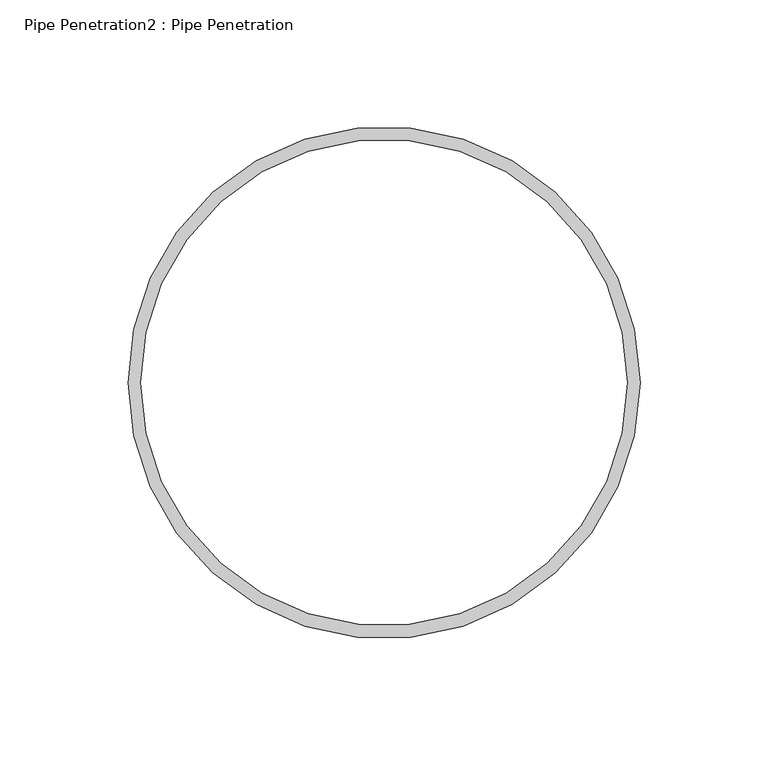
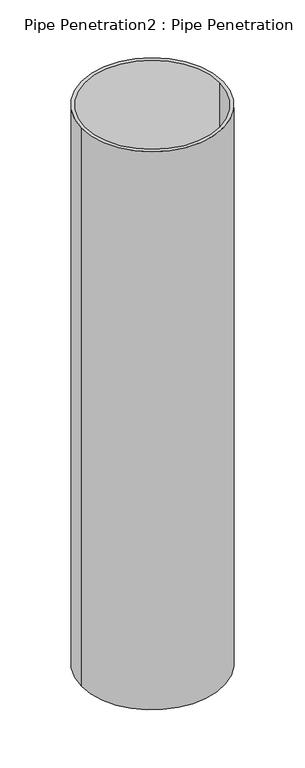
"""IFC4 building model written with IfcOpenShell, lengths in millimetres: furniture geometry, Pipe Penetration2 : Pipe Penetration."""

from ifc_helpers import new_model, si_unit, point, frame, frame_2d, origin, place, context, project, spatial, circle_curve, trimmed, segment, composite_curve, outline, extrude, source, transform, mapped, element, save


def pipe_penetration2_pipe_penetration_62f8e00c(model_context):
    return source(origin(), model_context, "Body", "SweptSolid", [
        extrude(outline(composite_curve([segment(trimmed(circle_curve(frame_2d((-11409.4489979, -18094.9204124)), 100.0), [point((-11509.4489979, -18094.9204124))], [point((-11309.4489979, -18094.9204124))], False, "CARTESIAN"), True, "CONTINUOUS"), segment(trimmed(circle_curve(frame_2d((-11409.4489979, -18094.9204124)), 100.0), [point((-11309.4489979, -18094.9204124))], [point((-11509.4489979, -18094.9204124))], False, "CARTESIAN"), True, "CONTINUOUS")], self_intersect=False), holes=[composite_curve([segment(trimmed(circle_curve(frame_2d((-11409.4489979, -18094.9204124)), 95.0), [point((-11504.4489979, -18094.9204124))], [point((-11314.4489979, -18094.9204124))], True, "CARTESIAN"), True, "CONTINUOUS"), segment(trimmed(circle_curve(frame_2d((-11409.4489979, -18094.9204124)), 95.0), [point((-11314.4489979, -18094.9204124))], [point((-11504.4489979, -18094.9204124))], True, "CARTESIAN"), True, "CONTINUOUS")], self_intersect=False)]), frame((0.0, 0.0, 5644.9260593), z_axis=(0.0, 0.0, 1.0), x_axis=(1.0, 0.0, 0.0)), (0.0, 0.0, 1.0), 832.5412755),
    ])


if __name__ == "__main__":
    model = new_model("IFC4")
    model_context = context("Model", 3, world=origin())
    ifc_project = project(units=[si_unit("LENGTHUNIT", "METRE", prefix="MILLI")], contexts=[model_context])
    site = spatial("IfcSite", under=ifc_project)
    building = spatial("IfcBuilding", under=site)
    placement = place(None, origin())
    pipe_penetration2_pipe_penetration_shape = pipe_penetration2_pipe_penetration_62f8e00c(model_context)
    element("IfcFurniture", 1, ObjectType="Pipe Penetration2 : Pipe Penetration", at=placement, inside=building, context=model_context, shape_type="MappedRepresentation", body=[
        mapped(pipe_penetration2_pipe_penetration_shape, transform((0.0, 0.0, 0.0), x_axis=(1.0, 0.0, 0.0), y_axis=(0.0, 1.0, 0.0), z_axis=(0.0, 0.0, 1.0))),
    ])
    save(model, "model.ifc")
